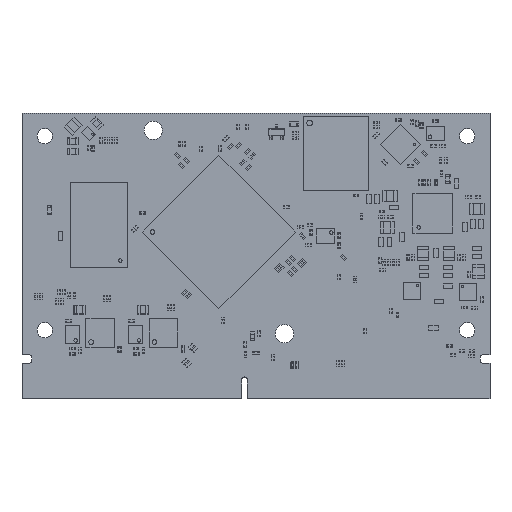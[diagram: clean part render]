
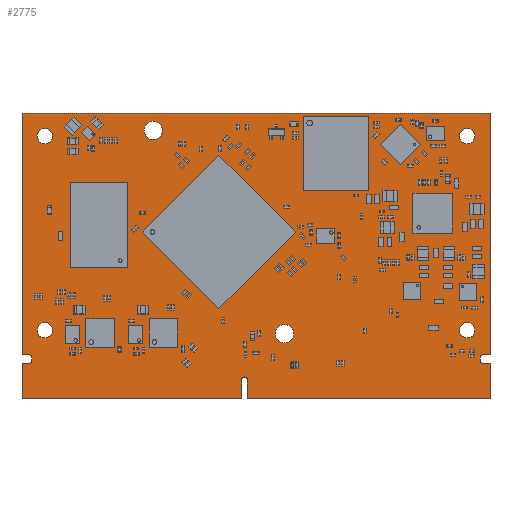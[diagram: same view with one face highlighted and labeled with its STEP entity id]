
A CAD part, top view. The second image highlights one B-rep face of the part: STEP entity #2775.
In plain terms, the highlighted planar face has unit normal (0, 0, 1).
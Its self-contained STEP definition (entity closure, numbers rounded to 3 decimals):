
#1908 = VERTEX_POINT('',#1909);
#1909 = CARTESIAN_POINT('',(0.,6.2,1.2));
#1915 = EDGE_CURVE('',#1908,#1916,#1918,.T.);
#1916 = VERTEX_POINT('',#1917);
#1917 = CARTESIAN_POINT('',(1.2,6.2,1.2));
#1918 = LINE('',#1919,#1920);
#1919 = CARTESIAN_POINT('',(0.,6.2,1.2));
#1920 = VECTOR('',#1921,1.);
#1921 = DIRECTION('',(1.,0.,0.));
#1946 = EDGE_CURVE('',#1916,#1947,#1949,.T.);
#1947 = VERTEX_POINT('',#1948);
#1948 = CARTESIAN_POINT('',(1.7,6.7,1.2));
#1949 = CIRCLE('',#1950,0.498);
#1950 = AXIS2_PLACEMENT_3D('',#1951,#1952,#1953);
#1951 = CARTESIAN_POINT('',(1.202,6.698,1.2));
#1952 = DIRECTION('',(0.,0.,1.));
#1953 = DIRECTION('',(-0.003,-1.,0.));
#1979 = EDGE_CURVE('',#1947,#1980,#1982,.T.);
#1980 = VERTEX_POINT('',#1981);
#1981 = CARTESIAN_POINT('',(1.7,7.2,1.2));
#1982 = LINE('',#1983,#1984);
#1983 = CARTESIAN_POINT('',(1.7,6.7,1.2));
#1984 = VECTOR('',#1985,1.);
#1985 = DIRECTION('',(0.,1.,0.));
#2010 = EDGE_CURVE('',#1980,#2011,#2013,.T.);
#2011 = VERTEX_POINT('',#2012);
#2012 = CARTESIAN_POINT('',(1.2,7.7,1.2));
#2013 = CIRCLE('',#2014,0.498);
#2014 = AXIS2_PLACEMENT_3D('',#2015,#2016,#2017);
#2015 = CARTESIAN_POINT('',(1.202,7.202,1.2));
#2016 = DIRECTION('',(0.,0.,1.));
#2017 = DIRECTION('',(1.,-0.003,0.));
#2043 = EDGE_CURVE('',#2011,#2044,#2046,.T.);
#2044 = VERTEX_POINT('',#2045);
#2045 = CARTESIAN_POINT('',(0.,7.7,1.2));
#2046 = LINE('',#2047,#2048);
#2047 = CARTESIAN_POINT('',(1.2,7.7,1.2));
#2048 = VECTOR('',#2049,1.);
#2049 = DIRECTION('',(-1.,0.,0.));
#2074 = EDGE_CURVE('',#2044,#2075,#2077,.T.);
#2075 = VERTEX_POINT('',#2076);
#2076 = CARTESIAN_POINT('',(0.,50.,1.2));
#2077 = LINE('',#2078,#2079);
#2078 = CARTESIAN_POINT('',(0.,7.7,1.2));
#2079 = VECTOR('',#2080,1.);
#2080 = DIRECTION('',(0.,1.,0.));
#2105 = EDGE_CURVE('',#2075,#2106,#2108,.T.);
#2106 = VERTEX_POINT('',#2107);
#2107 = CARTESIAN_POINT('',(82.,50.,1.2));
#2108 = LINE('',#2109,#2110);
#2109 = CARTESIAN_POINT('',(0.,50.,1.2));
#2110 = VECTOR('',#2111,1.);
#2111 = DIRECTION('',(1.,0.,0.));
#2136 = EDGE_CURVE('',#2106,#2137,#2139,.T.);
#2137 = VERTEX_POINT('',#2138);
#2138 = CARTESIAN_POINT('',(82.,7.7,1.2));
#2139 = LINE('',#2140,#2141);
#2140 = CARTESIAN_POINT('',(82.,50.,1.2));
#2141 = VECTOR('',#2142,1.);
#2142 = DIRECTION('',(0.,-1.,0.));
#2167 = EDGE_CURVE('',#2137,#2168,#2170,.T.);
#2168 = VERTEX_POINT('',#2169);
#2169 = CARTESIAN_POINT('',(80.8,7.7,1.2));
#2170 = LINE('',#2171,#2172);
#2171 = CARTESIAN_POINT('',(82.,7.7,1.2));
#2172 = VECTOR('',#2173,1.);
#2173 = DIRECTION('',(-1.,0.,0.));
#2198 = EDGE_CURVE('',#2168,#2199,#2201,.T.);
#2199 = VERTEX_POINT('',#2200);
#2200 = CARTESIAN_POINT('',(80.3,7.2,1.2));
#2201 = CIRCLE('',#2202,0.498);
#2202 = AXIS2_PLACEMENT_3D('',#2203,#2204,#2205);
#2203 = CARTESIAN_POINT('',(80.798,7.202,1.2));
#2204 = DIRECTION('',(0.,0.,1.));
#2205 = DIRECTION('',(0.003,1.,-0.));
#2231 = EDGE_CURVE('',#2199,#2232,#2234,.T.);
#2232 = VERTEX_POINT('',#2233);
#2233 = CARTESIAN_POINT('',(80.3,6.7,1.2));
#2234 = LINE('',#2235,#2236);
#2235 = CARTESIAN_POINT('',(80.3,7.2,1.2));
#2236 = VECTOR('',#2237,1.);
#2237 = DIRECTION('',(0.,-1.,0.));
#2262 = EDGE_CURVE('',#2232,#2263,#2265,.T.);
#2263 = VERTEX_POINT('',#2264);
#2264 = CARTESIAN_POINT('',(80.8,6.2,1.2));
#2265 = CIRCLE('',#2266,0.498);
#2266 = AXIS2_PLACEMENT_3D('',#2267,#2268,#2269);
#2267 = CARTESIAN_POINT('',(80.798,6.698,1.2));
#2268 = DIRECTION('',(0.,0.,1.));
#2269 = DIRECTION('',(-1.,0.003,0.));
#2295 = EDGE_CURVE('',#2263,#2296,#2298,.T.);
#2296 = VERTEX_POINT('',#2297);
#2297 = CARTESIAN_POINT('',(82.,6.2,1.2));
#2298 = LINE('',#2299,#2300);
#2299 = CARTESIAN_POINT('',(80.8,6.2,1.2));
#2300 = VECTOR('',#2301,1.);
#2301 = DIRECTION('',(1.,0.,0.));
#2326 = EDGE_CURVE('',#2296,#2327,#2329,.T.);
#2327 = VERTEX_POINT('',#2328);
#2328 = CARTESIAN_POINT('',(82.,0.,1.2));
#2329 = LINE('',#2330,#2331);
#2330 = CARTESIAN_POINT('',(82.,6.2,1.2));
#2331 = VECTOR('',#2332,1.);
#2332 = DIRECTION('',(0.,-1.,0.));
#2357 = EDGE_CURVE('',#2327,#2358,#2360,.T.);
#2358 = VERTEX_POINT('',#2359);
#2359 = CARTESIAN_POINT('',(39.5,0.,1.2));
#2360 = LINE('',#2361,#2362);
#2361 = CARTESIAN_POINT('',(82.,0.,1.2));
#2362 = VECTOR('',#2363,1.);
#2363 = DIRECTION('',(-1.,0.,0.));
#2388 = EDGE_CURVE('',#2358,#2389,#2391,.T.);
#2389 = VERTEX_POINT('',#2390);
#2390 = CARTESIAN_POINT('',(39.5,3.3,1.2));
#2391 = LINE('',#2392,#2393);
#2392 = CARTESIAN_POINT('',(39.5,0.,1.2));
#2393 = VECTOR('',#2394,1.);
#2394 = DIRECTION('',(0.,1.,0.));
#2419 = EDGE_CURVE('',#2389,#2420,#2422,.T.);
#2420 = VERTEX_POINT('',#2421);
#2421 = CARTESIAN_POINT('',(38.5,3.3,1.2));
#2422 = CIRCLE('',#2423,0.5);
#2423 = AXIS2_PLACEMENT_3D('',#2424,#2425,#2426);
#2424 = CARTESIAN_POINT('',(39.,3.3,1.2));
#2425 = DIRECTION('',(0.,0.,1.));
#2426 = DIRECTION('',(1.,0.,-0.));
#2452 = EDGE_CURVE('',#2420,#2453,#2455,.T.);
#2453 = VERTEX_POINT('',#2454);
#2454 = CARTESIAN_POINT('',(38.5,0.,1.2));
#2455 = LINE('',#2456,#2457);
#2456 = CARTESIAN_POINT('',(38.5,3.3,1.2));
#2457 = VECTOR('',#2458,1.);
#2458 = DIRECTION('',(0.,-1.,0.));
#2483 = EDGE_CURVE('',#2453,#2484,#2486,.T.);
#2484 = VERTEX_POINT('',#2485);
#2485 = CARTESIAN_POINT('',(0.,0.,1.2));
#2486 = LINE('',#2487,#2488);
#2487 = CARTESIAN_POINT('',(38.5,0.,1.2));
#2488 = VECTOR('',#2489,1.);
#2489 = DIRECTION('',(-1.,0.,0.));
#2514 = EDGE_CURVE('',#2484,#1908,#2515,.T.);
#2515 = LINE('',#2516,#2517);
#2516 = CARTESIAN_POINT('',(0.,0.,1.2));
#2517 = VECTOR('',#2518,1.);
#2518 = DIRECTION('',(0.,1.,0.));
#2538 = VERTEX_POINT('',#2539);
#2539 = CARTESIAN_POINT('',(5.35,12.,1.2));
#2545 = EDGE_CURVE('',#2538,#2538,#2546,.T.);
#2546 = CIRCLE('',#2547,1.35);
#2547 = AXIS2_PLACEMENT_3D('',#2548,#2549,#2550);
#2548 = CARTESIAN_POINT('',(4.,12.,1.2));
#2549 = DIRECTION('',(0.,0.,1.));
#2550 = DIRECTION('',(1.,0.,-0.));
#2571 = VERTEX_POINT('',#2572);
#2572 = CARTESIAN_POINT('',(5.35,46.,1.2));
#2578 = EDGE_CURVE('',#2571,#2571,#2579,.T.);
#2579 = CIRCLE('',#2580,1.35);
#2580 = AXIS2_PLACEMENT_3D('',#2581,#2582,#2583);
#2581 = CARTESIAN_POINT('',(4.,46.,1.2));
#2582 = DIRECTION('',(0.,0.,1.));
#2583 = DIRECTION('',(1.,0.,-0.));
#2604 = VERTEX_POINT('',#2605);
#2605 = CARTESIAN_POINT('',(24.6,47.,1.2));
#2611 = EDGE_CURVE('',#2604,#2604,#2612,.T.);
#2612 = CIRCLE('',#2613,1.6);
#2613 = AXIS2_PLACEMENT_3D('',#2614,#2615,#2616);
#2614 = CARTESIAN_POINT('',(23.,47.,1.2));
#2615 = DIRECTION('',(0.,0.,1.));
#2616 = DIRECTION('',(1.,0.,-0.));
#2637 = VERTEX_POINT('',#2638);
#2638 = CARTESIAN_POINT('',(47.6,11.4,1.2));
#2644 = EDGE_CURVE('',#2637,#2637,#2645,.T.);
#2645 = CIRCLE('',#2646,1.6);
#2646 = AXIS2_PLACEMENT_3D('',#2647,#2648,#2649);
#2647 = CARTESIAN_POINT('',(46.,11.4,1.2));
#2648 = DIRECTION('',(0.,0.,1.));
#2649 = DIRECTION('',(1.,0.,-0.));
#2670 = VERTEX_POINT('',#2671);
#2671 = CARTESIAN_POINT('',(79.35,46.,1.2));
#2677 = EDGE_CURVE('',#2670,#2670,#2678,.T.);
#2678 = CIRCLE('',#2679,1.35);
#2679 = AXIS2_PLACEMENT_3D('',#2680,#2681,#2682);
#2680 = CARTESIAN_POINT('',(78.,46.,1.2));
#2681 = DIRECTION('',(0.,0.,1.));
#2682 = DIRECTION('',(1.,0.,-0.));
#2703 = VERTEX_POINT('',#2704);
#2704 = CARTESIAN_POINT('',(79.35,12.,1.2));
#2710 = EDGE_CURVE('',#2703,#2703,#2711,.T.);
#2711 = CIRCLE('',#2712,1.35);
#2712 = AXIS2_PLACEMENT_3D('',#2713,#2714,#2715);
#2713 = CARTESIAN_POINT('',(78.,12.,1.2));
#2714 = DIRECTION('',(0.,0.,1.));
#2715 = DIRECTION('',(1.,0.,-0.));
#2775 = ADVANCED_FACE('',(#2776,#2798,#2801,#2804,#2807,#2810,#2813),
  #2816,.F.);
#2776 = FACE_BOUND('',#2777,.F.);
#2777 = EDGE_LOOP('',(#2778,#2779,#2780,#2781,#2782,#2783,#2784,#2785,
    #2786,#2787,#2788,#2789,#2790,#2791,#2792,#2793,#2794,#2795,#2796,
    #2797));
#2778 = ORIENTED_EDGE('',*,*,#1915,.T.);
#2779 = ORIENTED_EDGE('',*,*,#1946,.T.);
#2780 = ORIENTED_EDGE('',*,*,#1979,.T.);
#2781 = ORIENTED_EDGE('',*,*,#2010,.T.);
#2782 = ORIENTED_EDGE('',*,*,#2043,.T.);
#2783 = ORIENTED_EDGE('',*,*,#2074,.T.);
#2784 = ORIENTED_EDGE('',*,*,#2105,.T.);
#2785 = ORIENTED_EDGE('',*,*,#2136,.T.);
#2786 = ORIENTED_EDGE('',*,*,#2167,.T.);
#2787 = ORIENTED_EDGE('',*,*,#2198,.T.);
#2788 = ORIENTED_EDGE('',*,*,#2231,.T.);
#2789 = ORIENTED_EDGE('',*,*,#2262,.T.);
#2790 = ORIENTED_EDGE('',*,*,#2295,.T.);
#2791 = ORIENTED_EDGE('',*,*,#2326,.T.);
#2792 = ORIENTED_EDGE('',*,*,#2357,.T.);
#2793 = ORIENTED_EDGE('',*,*,#2388,.T.);
#2794 = ORIENTED_EDGE('',*,*,#2419,.T.);
#2795 = ORIENTED_EDGE('',*,*,#2452,.T.);
#2796 = ORIENTED_EDGE('',*,*,#2483,.T.);
#2797 = ORIENTED_EDGE('',*,*,#2514,.T.);
#2798 = FACE_BOUND('',#2799,.F.);
#2799 = EDGE_LOOP('',(#2800));
#2800 = ORIENTED_EDGE('',*,*,#2545,.T.);
#2801 = FACE_BOUND('',#2802,.F.);
#2802 = EDGE_LOOP('',(#2803));
#2803 = ORIENTED_EDGE('',*,*,#2578,.T.);
#2804 = FACE_BOUND('',#2805,.F.);
#2805 = EDGE_LOOP('',(#2806));
#2806 = ORIENTED_EDGE('',*,*,#2611,.T.);
#2807 = FACE_BOUND('',#2808,.F.);
#2808 = EDGE_LOOP('',(#2809));
#2809 = ORIENTED_EDGE('',*,*,#2644,.T.);
#2810 = FACE_BOUND('',#2811,.F.);
#2811 = EDGE_LOOP('',(#2812));
#2812 = ORIENTED_EDGE('',*,*,#2677,.T.);
#2813 = FACE_BOUND('',#2814,.F.);
#2814 = EDGE_LOOP('',(#2815));
#2815 = ORIENTED_EDGE('',*,*,#2710,.T.);
#2816 = PLANE('',#2817);
#2817 = AXIS2_PLACEMENT_3D('',#2818,#2819,#2820);
#2818 = CARTESIAN_POINT('',(40.949,24.033,1.2));
#2819 = DIRECTION('',(-0.,-0.,-1.));
#2820 = DIRECTION('',(-1.,0.,0.));
